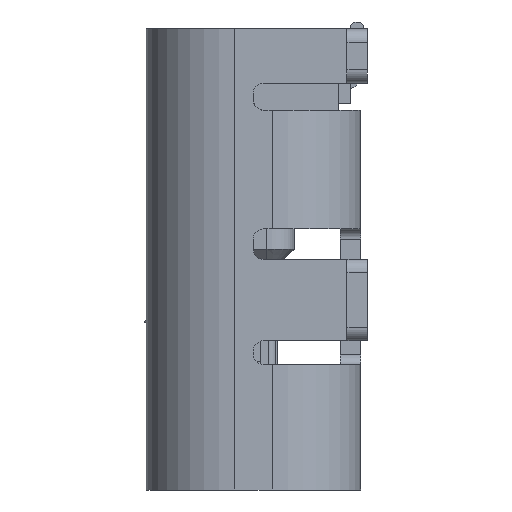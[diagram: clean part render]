
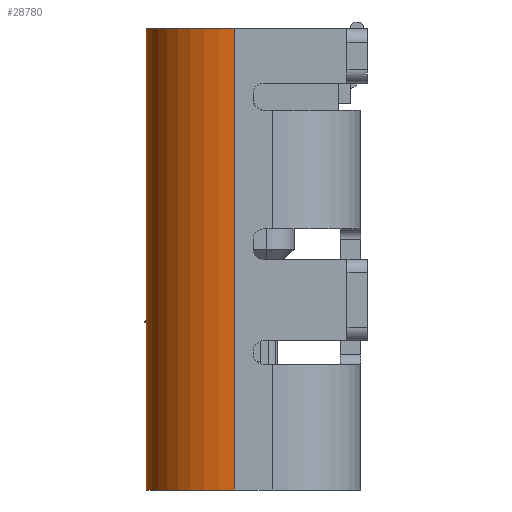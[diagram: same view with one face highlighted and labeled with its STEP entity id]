
A CAD part, left-side view. The second image highlights one B-rep face of the part: STEP entity #28780.
In plain terms, the highlighted cylindrical face has radius 1.3 mm (diameter 2.6 mm), a partial arc.
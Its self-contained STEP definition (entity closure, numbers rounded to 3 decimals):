
#21228=CARTESIAN_POINT('',(-3.17,0.28,6.8));
#21229=DIRECTION('',(0.,0.,-1.));
#21230=DIRECTION('',(-1.,0.,0.));
#21231=AXIS2_PLACEMENT_3D('',#21228,#21229,#21230);
#21266=DIRECTION('',(0.,0.,-1.));
#21267=VECTOR('',#21266,6.8);
#21268=CARTESIAN_POINT('',(-4.47,0.28,6.8));
#21269=LINE('',#21268,#21267);
#21273=DIRECTION('',(0.,0.,1.));
#21274=VECTOR('',#21273,6.8);
#21275=CARTESIAN_POINT('',(-3.17,1.58,0.));
#21276=LINE('',#21275,#21274);
#21356=CARTESIAN_POINT('',(-3.17,0.28,0.));
#21357=DIRECTION('',(0.,0.,1.));
#21358=DIRECTION('',(0.,1.,0.));
#21359=AXIS2_PLACEMENT_3D('',#21356,#21357,#21358);
#27683=CARTESIAN_POINT('',(-4.47,0.28,0.));
#27684=VERTEX_POINT('',#27683);
#27685=CARTESIAN_POINT('',(-4.47,0.28,6.8));
#27686=VERTEX_POINT('',#27685);
#27721=CARTESIAN_POINT('',(-3.17,1.58,6.8));
#27722=VERTEX_POINT('',#27721);
#27841=CARTESIAN_POINT('',(-3.17,1.58,0.));
#27842=VERTEX_POINT('',#27841);
#28767=CARTESIAN_POINT('',(-3.17,0.28,6.8));
#28768=DIRECTION('',(0.,0.,-1.));
#28769=DIRECTION('',(-1.,0.,0.));
#28770=AXIS2_PLACEMENT_3D('',#28767,#28768,#28769);
#28771=CYLINDRICAL_SURFACE('',#28770,1.3);
#28772=ORIENTED_EDGE('',*,*,#28748,.F.);
#28773=ORIENTED_EDGE('',*,*,#28692,.T.);
#28775=ORIENTED_EDGE('',*,*,#28774,.F.);
#28777=ORIENTED_EDGE('',*,*,#28776,.T.);
#28778=EDGE_LOOP('',(#28772,#28773,#28775,#28777));
#28779=FACE_OUTER_BOUND('',#28778,.F.);
#21232=CIRCLE('',#21231,1.3);
#21360=CIRCLE('',#21359,1.3);
#28692=EDGE_CURVE('',#27686,#27684,#21269,.T.);
#28748=EDGE_CURVE('',#27686,#27722,#21232,.T.);
#28774=EDGE_CURVE('',#27842,#27684,#21360,.T.);
#28776=EDGE_CURVE('',#27842,#27722,#21276,.T.);
#28780=ADVANCED_FACE('',(#28779),#28771,.T.);
